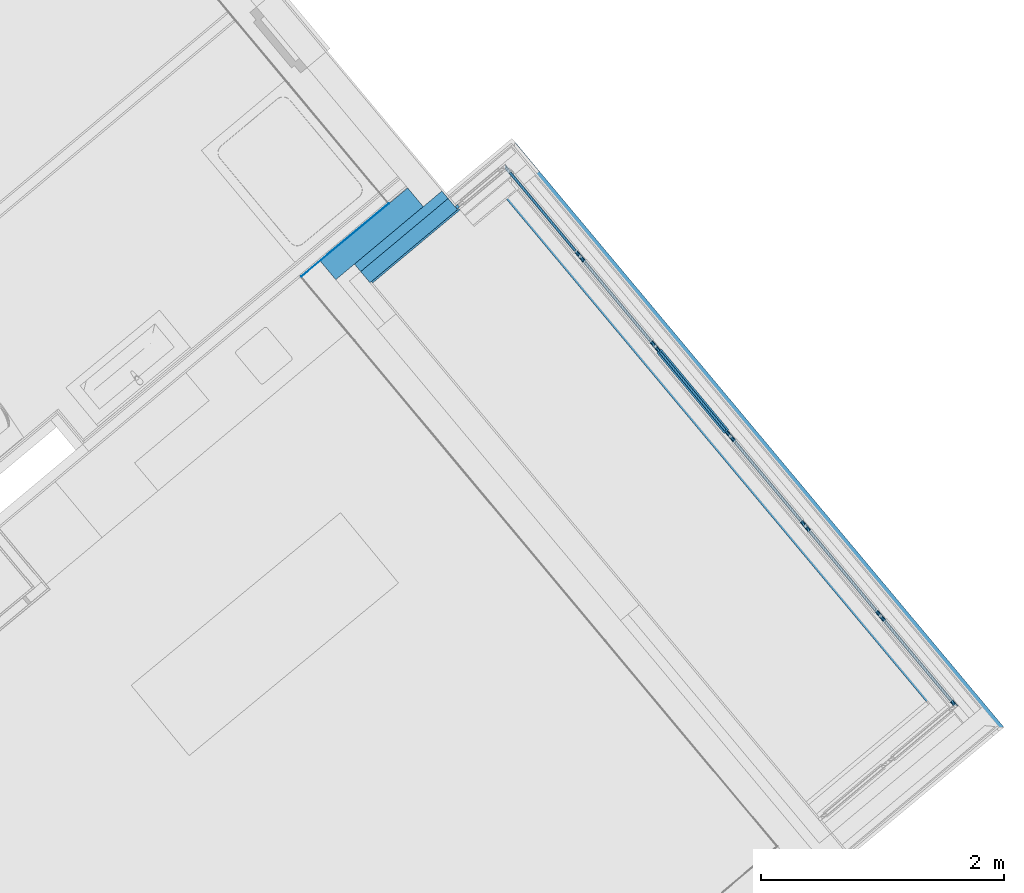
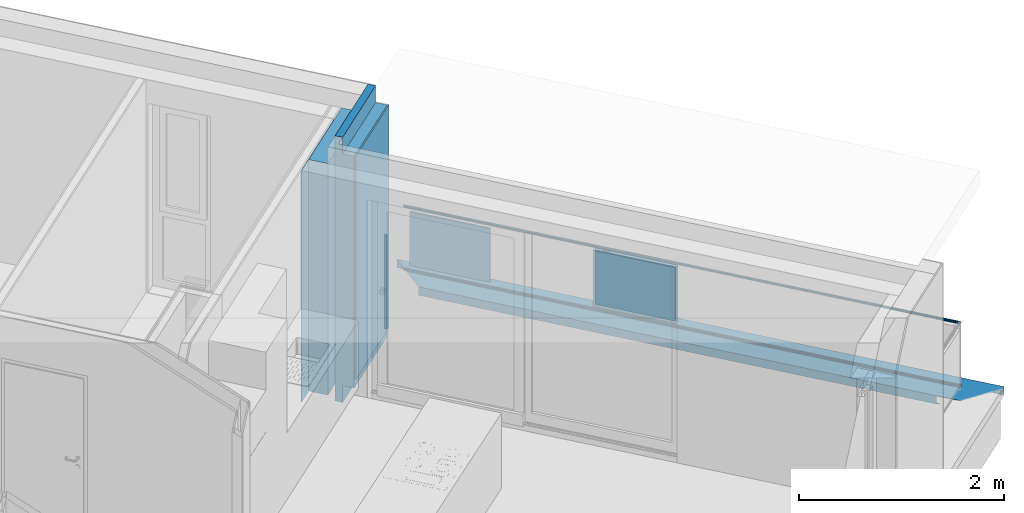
# One storey, part 38 of 53: 11 building element parts, 3 elements without a shape of their own.
"""IFC4 building model written with IfcOpenShell, lengths in metres."""

from ifc_helpers import new_model, entity, si_unit, converted_unit, derived_unit, direction, frame, origin_with_axes, place, context, subcontext, project, spatial, polygons, material, type_object, element, aggregate, save


model = new_model("IFC4")

# Units and contexts
model_context = context("Model", 3, precision=1e-05, world=origin_with_axes(), true_north=direction((0.0, 1.0)))
body_context = subcontext(model_context, "Body", "Model", "MODEL_VIEW")
ifc_project = project(units=[si_unit("LENGTHUNIT", "METRE"), si_unit("AREAUNIT", "SQUARE_METRE"), si_unit("VOLUMEUNIT", "CUBIC_METRE"), converted_unit("PLANEANGLEUNIT", "DEGREE", entity("IfcPlaneAngleMeasure", 0.0174532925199), si_unit("PLANEANGLEUNIT", "RADIAN"), dimensions=[0, 0, 0, 0, 0, 0, 0]), converted_unit("TIMEUNIT", "Year", entity("IfcTimeMeasure", 31556926.0), si_unit("TIMEUNIT", "SECOND"), dimensions=[0, 0, 1, 0, 0, 0, 0]), si_unit("MASSUNIT", "GRAM", prefix="KILO"), si_unit("THERMODYNAMICTEMPERATUREUNIT", "DEGREE_CELSIUS"), si_unit("LUMINOUSINTENSITYUNIT", "LUMEN"), si_unit("ENERGYUNIT", "JOULE", prefix="MEGA"), derived_unit("THERMALCONDUCTANCEUNIT", [(si_unit("POWERUNIT", "WATT"), 1), (si_unit("LENGTHUNIT", "METRE"), -1), (si_unit("THERMODYNAMICTEMPERATUREUNIT", "KELVIN"), -1)]), derived_unit("SPECIFICHEATCAPACITYUNIT", [(si_unit("ENERGYUNIT", "JOULE"), 1), (si_unit("MASSUNIT", "GRAM", prefix="KILO"), -1), (si_unit("THERMODYNAMICTEMPERATUREUNIT", "KELVIN"), -1)]), derived_unit("MASSDENSITYUNIT", [(si_unit("MASSUNIT", "GRAM", prefix="KILO"), 1), (si_unit("VOLUMEUNIT", "CUBIC_METRE"), -1)])], contexts=[model_context])

# Site, building, storey
site_placement = place(None, frame((-0.00153261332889, -0.00661245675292, 0.0), z_axis=(0.0, 0.0, 1.0), x_axis=(1.0, 0.0, 0.0)))
site = spatial("IfcSite", under=ifc_project, at=site_placement, Name="Gelände", CompositionType="ELEMENT")
building_placement = place(site_placement, origin_with_axes())
building = spatial("IfcBuilding", under=site, at=building_placement, Name="Gebäude", CompositionType="ELEMENT")
storey_placement = place(building_placement, frame((0.0, 0.0, 2.74), z_axis=(0.0, 0.0, 1.0), x_axis=(1.0, 0.0, 0.0)))
storey = spatial("IfcBuildingStorey", under=building, at=storey_placement, Name="OG1", CompositionType="ELEMENT", Elevation=2.74)

# Wall, building element parts
wall_type_1 = type_object("IfcWallType", Name="AW EG 420", PredefinedType="NOTDEFINED")
wall_1_placement = place(storey_placement, frame((9.48027034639, 24.9670510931, -0.2), z_axis=(0.0, 0.0, 1.0), x_axis=(0.767365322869, 0.641210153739, 0.0)))
wall_1 = element("IfcWall", 1, at=wall_1_placement, inside=storey, type_object=wall_type_1, Name="Wand-002", PredefinedType="NOTDEFINED")
ifc_material_1 = material(Name="Zementputz")
building_element_part_1_placement = place(wall_1_placement, origin_with_axes())
building_element_part_1 = element("IfcBuildingElementPart", 2, at=building_element_part_1_placement, material=ifc_material_1, Name="Zementputz", PredefinedType="NOTDEFINED", context=body_context, shape_type="Tessellation", body=[
    polygons([(0.5232139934, 0.42, 2.96), (0.523214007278, 0.415, 2.96), (0.523214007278, 0.415, 0.2), (0.5232139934, 0.42, 0.2), (-0.414999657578, 0.415, 2.96), (-0.414999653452, 0.42, 2.96), (-0.414999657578, 0.415, 0.2), (-0.414999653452, 0.42, 0.2)], [[[1, 2, 3, 4]], [[5, 2, 1, 6]], [[2, 5, 7, 3]], [[4, 3, 7, 8]], [[6, 1, 4, 8]], [[5, 6, 8, 7]]], closed=True),
])
ifc_material_2 = material(Name="Stahlbeton Wand")
building_element_part_2_placement = place(wall_1_placement, origin_with_axes())
building_element_part_2 = element("IfcBuildingElementPart", 3, at=building_element_part_2_placement, material=ifc_material_2, Name="Stahlbeton Wand", PredefinedType="NOTDEFINED", context=body_context, shape_type="Tessellation", body=[
    polygons([(0.723214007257, 0.415, 2.96), (0.723214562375, 0.214999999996, 2.96), (0.723214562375, 0.214999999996, 0.2), (0.723214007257, 0.415, 0.2), (-0.214999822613, 0.21499999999, 2.96), (-0.214999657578, 0.415, 2.96), (-0.214999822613, 0.21499999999, 0.2), (-0.214999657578, 0.415, 0.2)], [[[1, 2, 3, 4]], [[5, 2, 1, 6]], [[2, 5, 7, 3]], [[4, 3, 7, 8]], [[6, 1, 4, 8]], [[5, 6, 8, 7]]], closed=True),
])
ifc_material_3 = material(Name="EPS 1")
building_element_part_3_placement = place(wall_1_placement, origin_with_axes())
building_element_part_3 = element("IfcBuildingElementPart", 4, at=building_element_part_3_placement, material=ifc_material_3, Name="EPS 1", PredefinedType="NOTDEFINED", context=body_context, shape_type="Tessellation", body=[
    polygons([(0.923214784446, 0.134999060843, 3.16), (0.923214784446, 0.134999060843, 2.96), (0.923215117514, 0.015, 2.96), (0.923215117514, 0.015, 0.2), (0.923214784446, 0.134999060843, 0.2), (0.923214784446, 0.134999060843, 0.0), (0.923214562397, 0.215, 0.0), (0.923214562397, 0.215, 3.16), (-0.0149998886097, 0.13499983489, 3.16), (-0.0149998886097, 0.13499983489, 2.96), (-0.0149999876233, 0.015, 2.96), (-0.0149999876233, 0.015, 0.2), (-0.0149998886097, 0.13499983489, 0.2), (-0.0149998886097, 0.13499983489, 0.0), (-0.0149998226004, 0.215, 0.0), (-0.0149998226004, 0.215, 3.16)], [[[1, 2, 3, 4, 5, 6, 7, 8]], [[2, 1, 9, 10]], [[11, 3, 2, 10]], [[3, 11, 12, 4]], [[5, 4, 12, 13]], [[6, 5, 13, 14]], [[6, 14, 15, 7]], [[8, 7, 15, 16]], [[9, 1, 8, 16]], [[10, 9, 16, 15, 14, 13, 12, 11]]], closed=True),
])
building_element_part_4_placement = place(wall_1_placement, origin_with_axes())
building_element_part_4 = element("IfcBuildingElementPart", 5, at=building_element_part_4_placement, material=ifc_material_1, Name="Zementputz", PredefinedType="NOTDEFINED", context=body_context, shape_type="Tessellation", body=[
    polygons([(0.0, 0.0, 0.3), (0.938215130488, -1.09238307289e-08, 0.3), (0.938215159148, 0.0, 2.96), (0.0, 0.0, 2.96), (0.938215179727, 0.0149991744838, 0.3), (1.23767058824e-08, 0.0149999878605, 0.3), (0.938215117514, 0.015, 2.96), (1.23767200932e-08, 0.015, 2.96)], [[[1, 2, 3, 4]], [[5, 2, 1, 6]], [[2, 5, 7, 3]], [[4, 3, 7, 8]], [[6, 1, 4, 8]], [[5, 6, 8, 7]]], closed=True),
])
aggregate(wall_1, [building_element_part_1, building_element_part_2, building_element_part_3, building_element_part_4])

# Wall, building element part
wall_type_2 = type_object("IfcWallType", Name="Bauteil - Attika Balkon 356 x 610", PredefinedType="NOTDEFINED")
wall_2_placement = place(storey_placement, frame((10.5963720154, 25.814959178, -0.2), z_axis=(0.0, 0.0, 1.0), x_axis=(0.641206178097, -0.767368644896, 0.0)))
wall_2 = element("IfcWall", 6, at=wall_2_placement, inside=storey, type_object=wall_type_2, Name="Wand-003", PredefinedType="NOTDEFINED")
ifc_material_4 = material(Name="Stahl")
building_element_part_5_placement = place(wall_2_placement, origin_with_axes())
building_element_part_5 = element("IfcBuildingElementPart", 7, at=building_element_part_5_placement, material=ifc_material_4, Name="Stahl", PredefinedType="NOTDEFINED", context=body_context, shape_type="Tessellation", body=[
    polygons([(0.113601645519, -0.113600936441, 0.498915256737), (0.113601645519, -0.11360093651, 0.499999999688), (0.113601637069, -0.112247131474, 0.499999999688), (0.113601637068, -0.112247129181, 0.498915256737), (0.113601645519, -0.113600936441, 0.497561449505), (5.49897144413, -0.113600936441, 0.497561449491), (5.49897144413, -0.113600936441, 0.498822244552), (5.49897144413, -0.113600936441, 0.498915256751), (5.49897144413, -0.11360093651, 0.499999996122), (5.49897144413, -0.113600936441, 0.506731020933), (5.49897144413, -0.113600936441, 0.509050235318), (5.49897144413, -0.113600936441, 0.509099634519), (5.49897144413, -0.11360093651, 0.51136132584), (5.49897144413, -0.11360093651, 0.511410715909), (5.49897144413, -0.1136009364, 0.519224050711), (5.49897144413, -0.1136009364, 0.519273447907), (5.49897144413, -0.11360093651, 0.560000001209), (5.49897144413, -0.11360093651, 0.567947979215), (5.49897144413, -0.11360093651, 0.57388065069), (5.49897144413, -0.11360093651, 0.575576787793), (5.49897144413, -0.11360093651, 0.575979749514), (5.49897144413, -0.11360093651, 0.57982217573), (5.49897144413, -0.11360093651, 0.581921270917), (5.49897144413, -0.11360093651, 0.584015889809), (5.49897144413, -0.11360093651, 0.586106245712), (5.49897143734, -0.11360093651, 0.587937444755), (5.71744231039, -0.11360093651, 0.595846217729), (5.75350982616, -0.11360093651, 0.597151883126), (0.113601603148, -0.11360093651, 0.597151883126), (0.113601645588, -0.11360093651, 0.595846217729), (0.113601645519, -0.11360093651, 0.586106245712), (0.113601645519, -0.11360093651, 0.584015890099), (0.113601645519, -0.11360093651, 0.581921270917), (0.113601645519, -0.11360093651, 0.57982217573), (0.113601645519, -0.11360093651, 0.575576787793), (0.113601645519, -0.11360093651, 0.559999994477), (0.113601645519, -0.1136009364, 0.519273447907), (0.113601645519, -0.11360093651, 0.511410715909), (0.113601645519, -0.113600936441, 0.509099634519), (0.113601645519, -0.113600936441, 0.506731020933), (0.113601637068, -0.112247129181, 0.506731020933), (0.113601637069, -0.112247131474, 0.559999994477), (0.113601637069, -0.112247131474, 0.575576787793), (0.113601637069, -0.112247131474, 0.57982217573), (0.113601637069, -0.112247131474, 0.581921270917), (0.113601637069, -0.112247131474, 0.584015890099), (0.113601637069, -0.112247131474, 0.586106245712), (0.113601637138, -0.112247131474, 0.595846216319), (5.71744226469, -0.112247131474, 0.595846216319), (5.4989714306, -0.112247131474, 0.587937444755), (5.49897143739, -0.112247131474, 0.586106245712), (5.49897143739, -0.112247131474, 0.584015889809), (5.49897143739, -0.112247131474, 0.581921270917), (5.49897143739, -0.112247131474, 0.57982217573), (5.49897143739, -0.112247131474, 0.575979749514), (5.49897143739, -0.112247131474, 0.575576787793), (5.49897143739, -0.112247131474, 0.57388065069), (5.49897143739, -0.112247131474, 0.567947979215), (5.49897143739, -0.112247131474, 0.560000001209), (5.49897143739, -0.112247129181, 0.519273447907), (5.49897143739, -0.112247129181, 0.519224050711), (5.49897143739, -0.112247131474, 0.511410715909), (5.49897143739, -0.112247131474, 0.51136132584), (5.49897143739, -0.112247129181, 0.509099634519), (5.49897143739, -0.112247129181, 0.509050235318), (5.49897143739, -0.112247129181, 0.506731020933), (5.49897143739, -0.112247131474, 0.499999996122), (5.49897143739, -0.112247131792, 0.498915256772), (0.113601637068, -0.112247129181, 0.509099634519), (0.113601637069, -0.112247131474, 0.511410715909), (0.113601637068, -0.112247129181, 0.519273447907), (0.113601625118, -0.110332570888, 0.498915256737), (0.113601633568, -0.11168637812, 0.497561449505), (0.112644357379, -0.112643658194, 0.496604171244), (5.49897143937, -0.112643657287, 0.496604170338), (5.49897142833, -0.110425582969, 0.498822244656), (5.49897142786, -0.110332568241, 0.498915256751), (6.0689442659, 0.23927660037, 0.608570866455), (6.06894445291, 0.201708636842, 0.608570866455), (-0.2017098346, 0.20170855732, 0.608570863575), (6.06982075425, 0.202589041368, 0.608602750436), (6.07116820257, 0.202589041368, 0.608602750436), (6.07116801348, 0.241343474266, 0.610006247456), (5.82966895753, 0.241343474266, 0.610006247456), (5.82966895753, 0.242707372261, 0.610055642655), (-0.242708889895, 0.242707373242, 0.610055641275), (-0.2039541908, 0.203952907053, 0.608652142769), (0.113601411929, -0.0761775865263, 0.597151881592), (-0.201710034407, 0.239276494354, 0.608570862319), (0.112247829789, -0.112247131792, 0.498915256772), (5.49897143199, -0.111162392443, 0.499999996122), (5.52966951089, -0.111162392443, 0.499999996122), (5.52966947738, -0.104431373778, 0.506731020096), (0.104432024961, -0.104431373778, 0.506731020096), (0.111163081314, -0.111162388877, 0.499999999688), (0.112247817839, -0.110332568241, 0.498915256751), (0.111163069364, -0.109247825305, 0.499999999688), (0.105342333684, -0.103427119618, 0.505820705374), (5.52966947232, -0.103427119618, 0.505820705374), (5.52966950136, -0.10924782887, 0.499999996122), (5.49897142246, -0.10924782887, 0.499999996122), (6.06982056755, 0.240093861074, 0.608602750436), (6.07116801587, 0.240093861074, 0.608602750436), (6.07116801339, 0.24135992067, 0.60865214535), (6.07116801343, 0.241353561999, 0.511410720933), (6.07116800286, 0.242707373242, 0.511410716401), (6.07116800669, 0.242707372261, 0.610006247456), (5.82966895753, 0.242707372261, 0.610006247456), (-0.240794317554, 0.242707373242, 0.510056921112), (-0.239440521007, 0.242707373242, 0.511410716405), (-0.241355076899, 0.242707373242, 0.511410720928), (-0.241355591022, 0.242707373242, 0.519273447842), (-0.241358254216, 0.242707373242, 0.559999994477), (-0.241359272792, 0.242707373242, 0.575576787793), (-0.2413595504, 0.242707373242, 0.57982217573), (-0.241359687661, 0.242707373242, 0.581921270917), (-0.241359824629, 0.242707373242, 0.584015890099), (-0.241359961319, 0.242707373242, 0.586106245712), (-0.241360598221, 0.242707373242, 0.595846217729), (-0.241361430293, 0.242707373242, 0.608570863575), (-0.241361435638, 0.242707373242, 0.608652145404), (-0.203954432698, 0.242707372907, 0.608652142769), (6.06981419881, 0.242707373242, 0.511410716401), (6.06976481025, 0.242707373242, 0.511410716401), (6.06981419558, 0.242707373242, 0.51136132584), (6.07116800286, 0.242707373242, 0.51136132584), (6.07116800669, 0.242707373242, 0.510056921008), (-0.203954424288, 0.24135985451, 0.608652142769), (-0.241355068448, 0.241353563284, 0.511410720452), (-0.239440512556, 0.241353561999, 0.511410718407), (6.06976481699, 0.241353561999, 0.511410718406), (6.06981420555, 0.241353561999, 0.511410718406), (-0.241361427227, 0.241359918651, 0.608652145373), (-0.241361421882, 0.241359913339, 0.608570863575), (-0.241360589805, 0.241359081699, 0.595846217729), (-0.241359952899, 0.241358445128, 0.586106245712), (-0.241359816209, 0.241358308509, 0.584015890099), (-0.241359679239, 0.241358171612, 0.581921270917), (-0.241359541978, 0.241358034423, 0.57982217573), (-0.241359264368, 0.241357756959, 0.575576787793), (-0.241358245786, 0.241356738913, 0.559999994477), (-0.241355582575, 0.241354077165, 0.519273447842), (-0.239440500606, 0.239439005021, 0.511410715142), (-0.241751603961, 0.241750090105, 0.509099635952), (6.06976482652, 0.239439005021, 0.511410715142), (6.0698142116, 0.239488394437, 0.51136132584), (6.07116801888, 0.239488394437, 0.51136132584), (6.07116801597, 0.240842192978, 0.510007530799), (6.07116800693, 0.242657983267, 0.510007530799), (6.07026012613, 0.241750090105, 0.509099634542), (-0.232581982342, 0.234495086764, 0.518269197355), (-0.233492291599, 0.233490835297, 0.519273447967), (6.06981475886, 0.233490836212, 0.519273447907), (6.06981475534, 0.233540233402, 0.519224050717), (6.06195152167, 0.233540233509, 0.51922405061), (-0.232581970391, 0.232580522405, 0.518269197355), (6.06290637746, 0.232580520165, 0.518269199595), (6.06195152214, 0.233446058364, 0.51922405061), (6.06981475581, 0.233446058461, 0.519224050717)], [[[1, 2, 3, 4]], [[1, 5, 6, 7, 8, 9, 10, 11, 12, 13, 14, 15, 16, 17, 18, 19, 20, 21, 22, 23, 24, 25, 26, 27, 28, 29, 30, 31, 32, 33, 34, 35, 36, 37, 38, 39, 40, 2]], [[2, 40, 41, 3]], [[42, 43, 44, 45, 46, 47, 48, 49, 50, 51, 52, 53, 54, 55, 56, 57, 58, 59, 60, 61, 62, 63, 64, 65, 66, 67, 68, 4, 3, 41, 69, 70, 71]], [[5, 1, 4, 72, 73]], [[5, 74, 75, 6]], [[7, 6, 75, 76]], [[8, 7, 76, 77, 68]], [[9, 8, 68, 67]], [[10, 9, 67, 66]], [[11, 10, 66, 65]], [[12, 11, 65, 64]], [[13, 12, 64, 63]], [[14, 13, 63, 62]], [[15, 14, 62, 61]], [[15, 61, 60, 16]], [[59, 17, 16, 60]], [[18, 17, 59, 58]], [[19, 18, 58, 57]], [[20, 19, 57, 56]], [[21, 20, 56, 55]], [[22, 21, 55, 54]], [[23, 22, 54, 53]], [[24, 23, 53, 52]], [[25, 24, 52, 51]], [[25, 51, 50, 26]], [[49, 27, 26, 50]], [[27, 49, 78, 79, 28]], [[80, 29, 28, 79, 81, 82, 83, 84, 85, 86, 87]], [[30, 29, 88, 48]], [[47, 31, 30, 48]], [[32, 31, 47, 46]], [[33, 32, 46, 45]], [[34, 33, 45, 44]], [[35, 34, 44, 43]], [[36, 35, 43, 42]], [[36, 42, 71, 37]], [[70, 38, 37, 71]], [[39, 38, 70, 69]], [[40, 39, 69, 41]], [[48, 88, 89, 78, 49]], [[90, 4, 68, 91, 92, 93, 94, 95]], [[4, 90, 96, 72]], [[74, 73, 72, 96, 97, 98, 99, 100, 101, 77, 76, 75]], [[74, 5, 73]], [[68, 77, 101, 91]], [[81, 79, 78, 102]], [[29, 80, 89, 88]], [[82, 81, 102, 103]], [[104, 105, 106, 107, 83, 82, 103]], [[84, 83, 107, 108]], [[84, 108, 85]], [[109, 110, 111, 112, 113, 114, 115, 116, 117, 118, 119, 120, 121, 122, 86, 85, 108, 107, 106, 123, 124, 125, 126, 127]], [[87, 86, 122, 128]], [[80, 87, 128, 89]], [[89, 128, 104, 103, 102, 78]], [[100, 92, 91, 101]], [[92, 100, 99, 93]], [[98, 94, 93, 99]], [[97, 95, 94, 98]], [[90, 95, 97, 96]], [[129, 130, 131, 132, 105, 104, 128, 133, 134, 135, 136, 137, 138, 139, 140, 141, 142]], [[106, 105, 132, 123]], [[143, 130, 110, 109, 144]], [[130, 129, 111, 110]], [[129, 142, 112, 111]], [[142, 141, 113, 112]], [[141, 140, 114, 113]], [[140, 139, 115, 114]], [[139, 138, 116, 115]], [[138, 137, 117, 116]], [[137, 136, 118, 117]], [[136, 135, 119, 118]], [[135, 134, 120, 119]], [[134, 133, 121, 120]], [[121, 133, 128, 122]], [[131, 124, 123, 132]], [[145, 146, 125, 124, 131]], [[146, 147, 126, 125]], [[147, 148, 149, 127, 126]], [[144, 109, 127, 149, 150]], [[130, 151, 152, 153, 154, 155, 131]], [[143, 156, 151, 130]], [[156, 143, 144, 150, 148, 147, 146, 145, 157]], [[157, 145, 131, 155, 158]], [[148, 150, 149]], [[156, 152, 151]], [[152, 156, 157, 158, 159, 153]], [[159, 154, 153]], [[154, 159, 158, 155]]], closed=True),
])
aggregate(wall_2, [building_element_part_5])

# Space
space_placement = place(storey_placement, frame((9.48027034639, 24.9670510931, 0.22), z_axis=(0.0, 0.0, 1.0), x_axis=(0.641209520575, -0.76736585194, 0.0)))
space = spatial("IfcSpace", under=storey, at=space_placement, CompositionType="ELEMENT", PredefinedType="NOTDEFINED")

# Railing, building element parts
railing_type = type_object("IfcRailingType", Name="Geländerart", PredefinedType="NOTDEFINED")
railing_placement = place(space_placement, frame((5.69466912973, 0.0, 0.16), z_axis=(0.0, 0.0, 1.0), x_axis=(0.641209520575, 0.76736585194, 0.0)))
railing = element("IfcRailing", 8, at=railing_placement, inside=space, type_object=railing_type, Name="Geländer - 001", PredefinedType="NOTDEFINED")
ifc_material_5 = material(Name="Aluminium")
building_element_part_6_placement = place(railing_placement, origin_with_axes())
building_element_part_6 = element("IfcBuildingElementPart", 9, at=building_element_part_6_placement, material=ifc_material_5, Name="Aluminium", PredefinedType="NOTDEFINED", context=body_context, shape_type="Tessellation", body=[
    polygons([(-2.97157121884, 4.99992169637, -0.3), (-2.95554094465, 4.98073758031, -0.3), (-2.95554094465, 4.98073758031, 0.82), (-2.97157121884, 4.99992169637, 0.82), (-2.95238710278, 5.01595197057, -0.3), (-2.93635682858, 4.9967678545, -0.3), (-2.93635682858, 4.9967678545, 0.82), (-2.95238710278, 5.01595197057, 0.82)], [[[1, 2, 3, 4]], [[1, 5, 6, 2]], [[2, 6, 7, 3]], [[4, 3, 7, 8]], [[5, 1, 4, 8]], [[6, 5, 8, 7]]], closed=True),
])
building_element_part_7_placement = place(railing_placement, origin_with_axes())
building_element_part_7 = element("IfcBuildingElementPart", 10, at=building_element_part_7_placement, material=ifc_material_5, Name="Aluminium", PredefinedType="NOTDEFINED", context=body_context, shape_type="Tessellation", body=[
    polygons([(1.12370408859, 0.893355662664, 0.825), (1.12402507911, 0.893326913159, 0.827604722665), (-2.56299040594, 5.30579242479, 0.827604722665), (-2.5630191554, 5.30547143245, 0.825), (1.12402507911, 0.893326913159, 0.822395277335), (1.12497829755, 0.893241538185, 0.81986969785), (1.12653478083, 0.893102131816, 0.8175), (1.128647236, 0.892912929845, 0.815358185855), (1.13125147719, 0.892679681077, 0.813509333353), (1.13426837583, 0.892409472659, 0.812009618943), (1.137606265, 0.892110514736, 0.810904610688), (1.14116372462, 0.891791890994, 0.810227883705), (1.14483266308, 0.891463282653, 0.81), (1.14850160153, 0.891134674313, 0.810227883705), (1.15205906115, 0.890816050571, 0.810904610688), (1.15539695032, 0.890517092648, 0.812009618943), (1.15841384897, 0.89024688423, 0.813509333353), (1.16101809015, 0.890013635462, 0.815358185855), (1.16313054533, 0.889824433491, 0.8175), (1.16468702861, 0.889685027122, 0.81986969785), (1.16564024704, 0.889599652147, 0.822395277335), (1.16596123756, 0.889570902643, 0.825), (1.16564024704, 0.889599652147, 0.827604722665), (1.16468702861, 0.889685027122, 0.83013030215), (1.16313054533, 0.889824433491, 0.8325), (1.16101809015, 0.890013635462, 0.834641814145), (1.15841384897, 0.89024688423, 0.836490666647), (1.15539695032, 0.890517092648, 0.837990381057), (1.15205906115, 0.890816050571, 0.839095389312), (1.14850160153, 0.891134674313, 0.839772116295), (1.14483266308, 0.891463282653, 0.84), (1.14116372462, 0.891791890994, 0.839772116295), (1.137606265, 0.892110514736, 0.839095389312), (1.13426837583, 0.892409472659, 0.837990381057), (1.13125147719, 0.892679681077, 0.836490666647), (1.128647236, 0.892912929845, 0.834641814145), (1.12653478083, 0.893102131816, 0.8325), (1.12497829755, 0.893241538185, 0.83013030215), (-2.56290503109, 5.30674564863, 0.83013030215), (-2.56276562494, 5.30830214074, 0.8325), (-2.56257642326, 5.31041460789, 0.834641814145), (-2.56234317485, 5.31301886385, 0.836490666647), (-2.56207296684, 5.31603577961, 0.837990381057), (-2.56177400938, 5.3193736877, 0.839095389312), (-2.56145538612, 5.3229311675, 0.839772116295), (-2.56112677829, 5.32660012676, 0.84), (-2.56079817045, 5.33026908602, 0.839772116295), (-2.5604795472, 5.33382656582, 0.839095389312), (-2.56018058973, 5.33716447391, 0.837990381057), (-2.55991038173, 5.34018138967, 0.836490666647), (-2.55967713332, 5.34278564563, 0.834641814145), (-2.55948793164, 5.34489811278, 0.8325), (-2.55934852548, 5.34645460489, 0.83013030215), (-2.55926315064, 5.34740782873, 0.827604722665), (-2.55923440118, 5.34772882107, 0.825), (-2.55926315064, 5.34740782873, 0.822395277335), (-2.55934852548, 5.34645460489, 0.81986969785), (-2.55948793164, 5.34489811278, 0.8175), (-2.55967713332, 5.34278564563, 0.815358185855), (-2.55991038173, 5.34018138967, 0.813509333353), (-2.56018058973, 5.33716447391, 0.812009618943), (-2.5604795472, 5.33382656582, 0.810904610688), (-2.56079817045, 5.33026908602, 0.810227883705), (-2.56112677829, 5.32660012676, 0.81), (-2.56145538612, 5.3229311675, 0.810227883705), (-2.56177400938, 5.3193736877, 0.810904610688), (-2.56207296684, 5.31603577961, 0.812009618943), (-2.56234317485, 5.31301886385, 0.813509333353), (-2.56257642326, 5.31041460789, 0.815358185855), (-2.56276562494, 5.30830214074, 0.8175), (-2.56290503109, 5.30674564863, 0.81986969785), (-2.56299040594, 5.30579242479, 0.822395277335)], [[[1, 2, 3, 4]], [[1, 5, 6, 7, 8, 9, 10, 11, 12, 13, 14, 15, 16, 17, 18, 19, 20, 21, 22, 23, 24, 25, 26, 27, 28, 29, 30, 31, 32, 33, 34, 35, 36, 37, 38, 2]], [[2, 38, 39, 3]], [[4, 3, 39, 40, 41, 42, 43, 44, 45, 46, 47, 48, 49, 50, 51, 52, 53, 54, 55, 56, 57, 58, 59, 60, 61, 62, 63, 64, 65, 66, 67, 68, 69, 70, 71, 72]], [[5, 1, 4, 72]], [[6, 5, 72, 71]], [[7, 6, 71, 70]], [[8, 7, 70, 69]], [[9, 8, 69, 68]], [[10, 9, 68, 67]], [[11, 10, 67, 66]], [[12, 11, 66, 65]], [[13, 12, 65, 64]], [[14, 13, 64, 63]], [[15, 14, 63, 62]], [[16, 15, 62, 61]], [[17, 16, 61, 60]], [[18, 17, 60, 59]], [[19, 18, 59, 58]], [[20, 19, 58, 57]], [[21, 20, 57, 56]], [[22, 21, 56, 55]], [[23, 22, 55, 54]], [[24, 23, 54, 53]], [[25, 24, 53, 52]], [[26, 25, 52, 51]], [[27, 26, 51, 50]], [[28, 27, 50, 49]], [[29, 28, 49, 48]], [[30, 29, 48, 47]], [[31, 30, 47, 46]], [[32, 31, 46, 45]], [[33, 32, 45, 44]], [[34, 33, 44, 43]], [[35, 34, 43, 42]], [[36, 35, 42, 41]], [[37, 36, 41, 40]], [[38, 37, 40, 39]]], closed=True),
])
building_element_part_8_placement = place(railing_placement, origin_with_axes())
building_element_part_8 = element("IfcBuildingElementPart", 11, at=building_element_part_8_placement, material=ifc_material_5, Name="Aluminium", PredefinedType="NOTDEFINED", context=body_context, shape_type="Tessellation", body=[
    polygons([(1.12370408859, 0.893355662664, 0.07), (1.12402507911, 0.893326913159, 0.072604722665), (-2.56299040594, 5.30579242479, 0.072604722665), (-2.5630191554, 5.30547143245, 0.07), (1.12402507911, 0.893326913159, 0.067395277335), (1.12497829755, 0.893241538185, 0.0648696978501), (1.12653478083, 0.893102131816, 0.0625), (1.128647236, 0.892912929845, 0.0603581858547), (1.13125147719, 0.892679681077, 0.0585093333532), (1.13426837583, 0.892409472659, 0.0570096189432), (1.137606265, 0.892110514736, 0.0559046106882), (1.14116372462, 0.891791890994, 0.0552278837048), (1.14483266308, 0.891463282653, 0.055), (1.14850160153, 0.891134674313, 0.0552278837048), (1.15205906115, 0.890816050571, 0.0559046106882), (1.15539695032, 0.890517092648, 0.0570096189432), (1.15841384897, 0.89024688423, 0.0585093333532), (1.16101809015, 0.890013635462, 0.0603581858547), (1.16313054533, 0.889824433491, 0.0625), (1.16468702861, 0.889685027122, 0.0648696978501), (1.16564024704, 0.889599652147, 0.067395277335), (1.16596123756, 0.889570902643, 0.07), (1.16564024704, 0.889599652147, 0.072604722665), (1.16468702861, 0.889685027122, 0.0751303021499), (1.16313054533, 0.889824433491, 0.0775), (1.16101809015, 0.890013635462, 0.0796418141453), (1.15841384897, 0.89024688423, 0.0814906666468), (1.15539695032, 0.890517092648, 0.0829903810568), (1.15205906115, 0.890816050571, 0.0840953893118), (1.14850160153, 0.891134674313, 0.0847721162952), (1.14483266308, 0.891463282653, 0.085), (1.14116372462, 0.891791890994, 0.0847721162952), (1.137606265, 0.892110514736, 0.0840953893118), (1.13426837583, 0.892409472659, 0.0829903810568), (1.13125147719, 0.892679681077, 0.0814906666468), (1.128647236, 0.892912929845, 0.0796418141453), (1.12653478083, 0.893102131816, 0.0775), (1.12497829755, 0.893241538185, 0.0751303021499), (-2.56290503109, 5.30674564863, 0.0751303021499), (-2.56276562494, 5.30830214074, 0.0775), (-2.56257642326, 5.31041460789, 0.0796418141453), (-2.56234317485, 5.31301886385, 0.0814906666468), (-2.56207296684, 5.31603577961, 0.0829903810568), (-2.56177400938, 5.3193736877, 0.0840953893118), (-2.56145538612, 5.3229311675, 0.0847721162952), (-2.56112677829, 5.32660012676, 0.085), (-2.56079817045, 5.33026908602, 0.0847721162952), (-2.5604795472, 5.33382656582, 0.0840953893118), (-2.56018058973, 5.33716447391, 0.0829903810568), (-2.55991038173, 5.34018138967, 0.0814906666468), (-2.55967713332, 5.34278564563, 0.0796418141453), (-2.55948793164, 5.34489811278, 0.0775), (-2.55934852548, 5.34645460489, 0.0751303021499), (-2.55926315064, 5.34740782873, 0.072604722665), (-2.55923440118, 5.34772882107, 0.07), (-2.55926315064, 5.34740782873, 0.067395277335), (-2.55934852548, 5.34645460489, 0.0648696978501), (-2.55948793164, 5.34489811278, 0.0625), (-2.55967713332, 5.34278564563, 0.0603581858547), (-2.55991038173, 5.34018138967, 0.0585093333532), (-2.56018058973, 5.33716447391, 0.0570096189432), (-2.5604795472, 5.33382656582, 0.0559046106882), (-2.56079817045, 5.33026908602, 0.0552278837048), (-2.56112677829, 5.32660012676, 0.055), (-2.56145538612, 5.3229311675, 0.0552278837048), (-2.56177400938, 5.3193736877, 0.0559046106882), (-2.56207296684, 5.31603577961, 0.0570096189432), (-2.56234317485, 5.31301886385, 0.0585093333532), (-2.56257642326, 5.31041460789, 0.0603581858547), (-2.56276562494, 5.30830214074, 0.0625), (-2.56290503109, 5.30674564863, 0.0648696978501), (-2.56299040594, 5.30579242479, 0.067395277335)], [[[1, 2, 3, 4]], [[1, 5, 6, 7, 8, 9, 10, 11, 12, 13, 14, 15, 16, 17, 18, 19, 20, 21, 22, 23, 24, 25, 26, 27, 28, 29, 30, 31, 32, 33, 34, 35, 36, 37, 38, 2]], [[2, 38, 39, 3]], [[4, 3, 39, 40, 41, 42, 43, 44, 45, 46, 47, 48, 49, 50, 51, 52, 53, 54, 55, 56, 57, 58, 59, 60, 61, 62, 63, 64, 65, 66, 67, 68, 69, 70, 71, 72]], [[5, 1, 4, 72]], [[6, 5, 72, 71]], [[7, 6, 71, 70]], [[8, 7, 70, 69]], [[9, 8, 69, 68]], [[10, 9, 68, 67]], [[11, 10, 67, 66]], [[12, 11, 66, 65]], [[13, 12, 65, 64]], [[14, 13, 64, 63]], [[15, 14, 63, 62]], [[16, 15, 62, 61]], [[17, 16, 61, 60]], [[18, 17, 60, 59]], [[19, 18, 59, 58]], [[20, 19, 58, 57]], [[21, 20, 57, 56]], [[22, 21, 56, 55]], [[23, 22, 55, 54]], [[24, 23, 54, 53]], [[25, 24, 53, 52]], [[26, 25, 52, 51]], [[27, 26, 51, 50]], [[28, 27, 50, 49]], [[29, 28, 49, 48]], [[30, 29, 48, 47]], [[31, 30, 47, 46]], [[32, 31, 46, 45]], [[33, 32, 45, 44]], [[34, 33, 44, 43]], [[35, 34, 43, 42]], [[36, 35, 42, 41]], [[37, 36, 41, 40]], [[38, 37, 40, 39]]], closed=True),
])
ifc_material_6 = material(Name="Profilit")
building_element_part_9_placement = place(railing_placement, origin_with_axes())
building_element_part_9 = element("IfcBuildingElementPart", 12, at=building_element_part_9_placement, material=ifc_material_6, Name="Profilit", PredefinedType="NOTDEFINED", context=body_context, shape_type="Tessellation", body=[
    polygons([(-1.29180225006, 3.79193015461, 0.135), (-0.7574991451, 3.15249860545, 0.135), (-0.7574991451, 3.15249860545, 0.775), (-1.29180225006, 3.79193015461, 0.775), (-0.742151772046, 3.16532272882, 0.135), (-1.27645487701, 3.80475427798, 0.135), (-0.742151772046, 3.16532272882, 0.775), (-1.27645487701, 3.80475427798, 0.775)], [[[1, 2, 3, 4]], [[5, 2, 1, 6]], [[7, 3, 2, 5]], [[4, 3, 7, 8]], [[1, 4, 8, 6]], [[7, 5, 6, 8]]], closed=True),
])
building_element_part_10_placement = place(railing_placement, origin_with_axes())
building_element_part_10 = element("IfcBuildingElementPart", 13, at=building_element_part_10_placement, material=ifc_material_5, Name="Aluminium", PredefinedType="NOTDEFINED", context=body_context, shape_type="Tessellation", body=[
    polygons([(-0.806246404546, 3.22253398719, 0.12), (-0.851130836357, 3.27624979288, 0.12), (-0.851130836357, 3.27624979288, 0.095), (-0.806246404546, 3.22253398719, 0.095), (-0.802409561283, 3.22574001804, 0.12), (-0.847293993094, 3.27945582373, 0.12), (-0.847293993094, 3.27945582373, 0.095), (-0.802409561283, 3.22574001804, 0.095)], [[[1, 2, 3, 4]], [[5, 6, 2, 1]], [[2, 6, 7, 3]], [[4, 3, 7, 8]], [[1, 4, 8, 5]], [[8, 7, 6, 5]]], closed=True),
    polygons([(-1.23154446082, 3.73151286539, 0.79), (-1.18666002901, 3.6777970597, 0.79), (-1.18666002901, 3.6777970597, 0.795), (-1.23154446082, 3.73151286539, 0.795), (-1.22770761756, 3.73471889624, 0.79), (-1.18282318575, 3.68100309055, 0.79), (-1.18282318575, 3.68100309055, 0.795), (-1.22770761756, 3.73471889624, 0.795)], [[[1, 2, 3, 4]], [[5, 6, 2, 1]], [[2, 6, 7, 3]], [[4, 3, 7, 8]], [[1, 4, 8, 5]], [[8, 7, 6, 5]]], closed=True),
    polygons([(-0.721023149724, 3.16343029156, 0.12), (-0.75939158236, 3.13136998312, 0.12), (-1.31293087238, 3.79382259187, 0.12), (-1.27456243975, 3.82588290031, 0.12), (-0.733847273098, 3.17877766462, 0.14), (-0.745357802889, 3.16915957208, 0.14), (-0.742151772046, 3.16532272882, 0.135), (-0.7574991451, 3.15249860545, 0.135), (-0.760705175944, 3.15633544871, 0.14), (-0.772215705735, 3.14671735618, 0.14), (-1.30010674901, 3.77847521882, 0.14), (-1.30010674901, 3.77847521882, 0.77), (-0.772215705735, 3.14671735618, 0.77), (-0.772215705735, 3.14671735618, 0.14), (-0.75939158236, 3.13136998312, 0.12), (-0.75939158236, 3.13136998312, 0.79), (-1.31293087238, 3.79382259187, 0.79), (-1.27456243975, 3.82588290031, 0.79), (-0.721023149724, 3.16343029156, 0.79), (-0.721023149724, 3.16343029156, 0.12), (-0.733847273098, 3.17877766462, 0.14), (-0.733847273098, 3.17877766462, 0.77), (-1.26173831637, 3.81053552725, 0.77), (-1.26173831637, 3.81053552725, 0.14), (-1.27324884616, 3.80091743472, 0.14), (-1.27324884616, 3.80091743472, 0.77), (-0.745357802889, 3.16915957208, 0.77), (-0.745357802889, 3.16915957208, 0.14), (-0.742151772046, 3.16532272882, 0.135), (-0.742151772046, 3.16532272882, 0.775), (-1.27645487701, 3.80475427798, 0.775), (-1.27645487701, 3.80475427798, 0.135), (-1.29180225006, 3.79193015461, 0.135), (-1.29180225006, 3.79193015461, 0.775), (-0.7574991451, 3.15249860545, 0.775), (-0.7574991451, 3.15249860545, 0.135), (-0.760705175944, 3.15633544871, 0.14), (-0.760705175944, 3.15633544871, 0.77), (-1.28859621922, 3.78809331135, 0.77), (-1.28859621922, 3.78809331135, 0.14)], [[[1, 2, 3, 4]], [[1, 5, 6, 7, 8, 9, 10, 2]], [[2, 10, 11, 12, 13, 14, 15, 16, 17, 3]], [[4, 3, 17, 18]], [[5, 1, 4, 18, 19, 20, 21, 22, 23, 24]], [[6, 5, 24, 25]], [[7, 6, 25, 26, 27, 28, 29, 30, 31, 32]], [[8, 7, 32, 33]], [[9, 8, 33, 34, 35, 36, 37, 38, 39, 40]], [[10, 9, 40, 11]], [[11, 40, 39, 12]], [[12, 39, 38, 13]], [[13, 38, 37, 14]], [[20, 15, 14, 37, 36, 29, 28, 21]], [[19, 16, 15, 20]], [[18, 17, 16, 19]], [[27, 22, 21, 28]], [[26, 23, 22, 27]], [[25, 24, 23, 26]], [[35, 30, 29, 36]], [[34, 31, 30, 35]], [[33, 32, 31, 34]]], closed=True),
])
building_element_part_11_placement = place(railing_placement, origin_with_axes())
building_element_part_11 = element("IfcBuildingElementPart", 14, at=building_element_part_11_placement, material=ifc_material_6, Name="Profilit", PredefinedType="NOTDEFINED", context=body_context, shape_type="Tessellation", body=[
    polygons([(-2.52712206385, 5.27030910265, 0.135), (-1.99281895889, 4.63087755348, 0.135), (-1.99281895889, 4.63087755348, 0.775), (-2.52712206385, 5.27030910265, 0.775), (-1.97747158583, 4.64370167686, 0.135), (-2.51177469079, 5.28313322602, 0.135), (-1.97747158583, 4.64370167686, 0.775), (-2.51177469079, 5.28313322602, 0.775)], [[[1, 2, 3, 4]], [[5, 2, 1, 6]], [[7, 3, 2, 5]], [[4, 3, 7, 8]], [[1, 4, 8, 6]], [[7, 5, 6, 8]]], closed=True),
])
aggregate(railing, [building_element_part_6, building_element_part_7, building_element_part_8, building_element_part_9, building_element_part_10, building_element_part_11])

save(model, "model.ifc")
